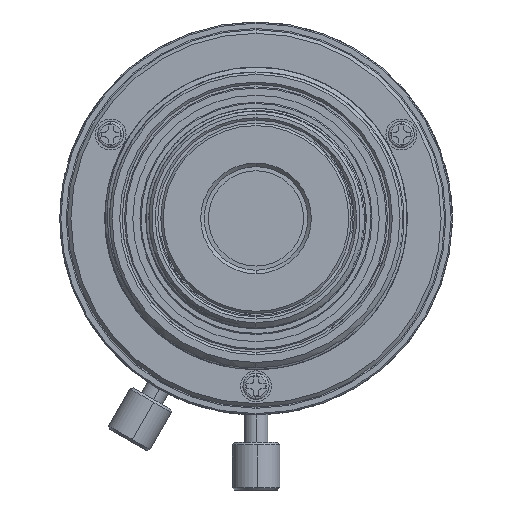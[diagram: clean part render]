
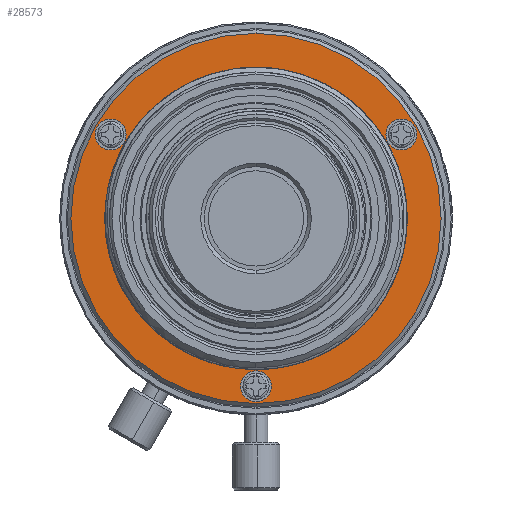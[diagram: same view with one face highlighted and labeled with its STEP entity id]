
A CAD part, front view. The second image highlights one B-rep face of the part: STEP entity #28573.
In plain terms, the highlighted planar face has unit normal (0, 1, 0).
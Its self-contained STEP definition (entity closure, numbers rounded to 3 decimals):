
#570 = CIRCLE ( 'NONE', #33100, 12.1 ) ;
#872 = EDGE_LOOP ( 'NONE', ( #6571, #2146 ) ) ;
#1667 = CARTESIAN_POINT ( 'NONE',  ( 12.211, -2.674, 7.05 ) ) ;
#1830 = EDGE_LOOP ( 'NONE', ( #25252, #28541 ) ) ;
#1973 = DIRECTION ( 'NONE',  ( 0., 1., 0. ) ) ;
#2084 = DIRECTION ( 'NONE',  ( 0., 0., -1. ) ) ;
#2146 = ORIENTED_EDGE ( 'NONE', *, *, #26427, .F. ) ;
#2754 = FACE_BOUND ( 'NONE', #872, .T. ) ;
#2823 = EDGE_CURVE ( 'NONE', #13153, #30899, #17665, .T. ) ;
#3030 = ORIENTED_EDGE ( 'NONE', *, *, #29679, .F. ) ;
#5256 = CARTESIAN_POINT ( 'NONE',  ( 0., -2.674, 0. ) ) ;
#5676 = VERTEX_POINT ( 'NONE', #15862 ) ;
#6571 = ORIENTED_EDGE ( 'NONE', *, *, #36274, .F. ) ;
#7588 = CARTESIAN_POINT ( 'NONE',  ( 0., -2.674, -15.55 ) ) ;
#9492 = FACE_BOUND ( 'NONE', #48688, .T. ) ;
#9953 = AXIS2_PLACEMENT_3D ( 'NONE', #18325, #44793, #22135 ) ;
#10612 = AXIS2_PLACEMENT_3D ( 'NONE', #11395, #37991, #15263 ) ;
#10906 = CARTESIAN_POINT ( 'NONE',  ( 0., -2.674, 0. ) ) ;
#11395 = CARTESIAN_POINT ( 'NONE',  ( 0., -2.674, 0. ) ) ;
#11472 = DIRECTION ( 'NONE',  ( 0., 1., 0. ) ) ;
#11486 = DIRECTION ( 'NONE',  ( 0., -1., 0. ) ) ;
#11969 = CARTESIAN_POINT ( 'NONE',  ( 0., -2.674, -14.1 ) ) ;
#12018 = VERTEX_POINT ( 'NONE', #29387 ) ;
#12100 = EDGE_LOOP ( 'NONE', ( #33950, #19963 ) ) ;
#12176 = CARTESIAN_POINT ( 'NONE',  ( -12.211, -2.674, 5.75 ) ) ;
#12755 = CARTESIAN_POINT ( 'NONE',  ( -12.211, -2.674, 7.05 ) ) ;
#13153 = VERTEX_POINT ( 'NONE', #19038 ) ;
#13179 = EDGE_CURVE ( 'NONE', #44240, #30445, #18993, .T. ) ;
#13653 = CARTESIAN_POINT ( 'NONE',  ( 0., -2.674, -12.1 ) ) ;
#13654 = AXIS2_PLACEMENT_3D ( 'NONE', #41533, #18880, #45323 ) ;
#13668 = CARTESIAN_POINT ( 'NONE',  ( 0., -2.674, -15.4 ) ) ;
#14510 = VERTEX_POINT ( 'NONE', #13668 ) ;
#14771 = DIRECTION ( 'NONE',  ( 0., 0., -1. ) ) ;
#14922 = CIRCLE ( 'NONE', #10612, 15.55 ) ;
#15263 = DIRECTION ( 'NONE',  ( 0., 0., 1. ) ) ;
#15826 = DIRECTION ( 'NONE',  ( 0., 0., -1. ) ) ;
#15862 = CARTESIAN_POINT ( 'NONE',  ( 0., -2.674, -12.8 ) ) ;
#15907 = CARTESIAN_POINT ( 'NONE',  ( 0., -2.674, 0. ) ) ;
#16598 = DIRECTION ( 'NONE',  ( 0., 0., -1. ) ) ;
#16989 = DIRECTION ( 'NONE',  ( 0., -1., 0. ) ) ;
#17408 = AXIS2_PLACEMENT_3D ( 'NONE', #34269, #11472, #38059 ) ;
#17665 = CIRCLE ( 'NONE', #36646, 1.3 ) ;
#18201 = AXIS2_PLACEMENT_3D ( 'NONE', #10906, #37523, #14771 ) ;
#18325 = CARTESIAN_POINT ( 'NONE',  ( 0., -2.674, -14.1 ) ) ;
#18880 = DIRECTION ( 'NONE',  ( 0., 1., 0. ) ) ;
#18993 = CIRCLE ( 'NONE', #28237, 15.55 ) ;
#19038 = CARTESIAN_POINT ( 'NONE',  ( 12.211, -2.674, 5.75 ) ) ;
#19687 = CIRCLE ( 'NONE', #22483, 1.3 ) ;
#19742 = FACE_BOUND ( 'NONE', #42134, .T. ) ;
#19785 = DIRECTION ( 'NONE',  ( 0., 0., -1. ) ) ;
#19963 = ORIENTED_EDGE ( 'NONE', *, *, #29543, .F. ) ;
#20377 = EDGE_CURVE ( 'NONE', #36958, #12018, #570, .T. ) ;
#22135 = DIRECTION ( 'NONE',  ( 0., 0., -1. ) ) ;
#22483 = AXIS2_PLACEMENT_3D ( 'NONE', #11969, #38554, #15826 ) ;
#23372 = EDGE_CURVE ( 'NONE', #12018, #36958, #46525, .T. ) ;
#23649 = AXIS2_PLACEMENT_3D ( 'NONE', #12755, #39316, #16598 ) ;
#24443 = CIRCLE ( 'NONE', #17408, 1.3 ) ;
#24455 = VERTEX_POINT ( 'NONE', #12176 ) ;
#25111 = CIRCLE ( 'NONE', #9953, 1.3 ) ;
#25252 = ORIENTED_EDGE ( 'NONE', *, *, #13179, .F. ) ;
#25557 = ORIENTED_EDGE ( 'NONE', *, *, #47600, .F. ) ;
#26427 = EDGE_CURVE ( 'NONE', #44283, #24455, #36992, .T. ) ;
#27776 = CIRCLE ( 'NONE', #13654, 1.3 ) ;
#28237 = AXIS2_PLACEMENT_3D ( 'NONE', #34282, #11486, #38075 ) ;
#28541 = ORIENTED_EDGE ( 'NONE', *, *, #28838, .F. ) ;
#28573 = ADVANCED_FACE ( 'NONE', ( #2754, #29823, #19742, #9492, #48677 ), #47068, .F. ) ;
#28648 = ORIENTED_EDGE ( 'NONE', *, *, #20377, .F. ) ;
#28838 = EDGE_CURVE ( 'NONE', #30445, #44240, #14922, .T. ) ;
#29387 = CARTESIAN_POINT ( 'NONE',  ( 0., -2.674, 12.1 ) ) ;
#29543 = EDGE_CURVE ( 'NONE', #30899, #13153, #24443, .T. ) ;
#29679 = EDGE_CURVE ( 'NONE', #5676, #14510, #19687, .T. ) ;
#29823 = FACE_BOUND ( 'NONE', #12100, .T. ) ;
#30445 = VERTEX_POINT ( 'NONE', #7588 ) ;
#30899 = VERTEX_POINT ( 'NONE', #36484 ) ;
#33100 = AXIS2_PLACEMENT_3D ( 'NONE', #15907, #42431, #19785 ) ;
#33950 = ORIENTED_EDGE ( 'NONE', *, *, #2823, .F. ) ;
#34269 = CARTESIAN_POINT ( 'NONE',  ( 12.211, -2.674, 7.05 ) ) ;
#34282 = CARTESIAN_POINT ( 'NONE',  ( 0., -2.674, 0. ) ) ;
#36274 = EDGE_CURVE ( 'NONE', #24455, #44283, #27776, .T. ) ;
#36484 = CARTESIAN_POINT ( 'NONE',  ( 12.211, -2.674, 8.35 ) ) ;
#36646 = AXIS2_PLACEMENT_3D ( 'NONE', #1667, #1973, #2084 ) ;
#36958 = VERTEX_POINT ( 'NONE', #13653 ) ;
#36992 = CIRCLE ( 'NONE', #23649, 1.3 ) ;
#37523 = DIRECTION ( 'NONE',  ( 0., 1., 0. ) ) ;
#37991 = DIRECTION ( 'NONE',  ( 0., -1., 0. ) ) ;
#38059 = DIRECTION ( 'NONE',  ( 0., 0., -1. ) ) ;
#38075 = DIRECTION ( 'NONE',  ( 0., 0., 1. ) ) ;
#38554 = DIRECTION ( 'NONE',  ( 0., 1., 0. ) ) ;
#39316 = DIRECTION ( 'NONE',  ( 0., 1., 0. ) ) ;
#41533 = CARTESIAN_POINT ( 'NONE',  ( -12.211, -2.674, 7.05 ) ) ;
#42117 = AXIS2_PLACEMENT_3D ( 'NONE', #5256, #16989, #43474 ) ;
#42134 = EDGE_LOOP ( 'NONE', ( #25557, #3030 ) ) ;
#42431 = DIRECTION ( 'NONE',  ( 0., 1., 0. ) ) ;
#42995 = CARTESIAN_POINT ( 'NONE',  ( 0., -2.674, 15.55 ) ) ;
#43474 = DIRECTION ( 'NONE',  ( 0., 0., -1. ) ) ;
#44240 = VERTEX_POINT ( 'NONE', #42995 ) ;
#44283 = VERTEX_POINT ( 'NONE', #46766 ) ;
#44793 = DIRECTION ( 'NONE',  ( 0., 1., 0. ) ) ;
#45323 = DIRECTION ( 'NONE',  ( 0., 0., -1. ) ) ;
#46525 = CIRCLE ( 'NONE', #18201, 12.1 ) ;
#46766 = CARTESIAN_POINT ( 'NONE',  ( -12.211, -2.674, 8.35 ) ) ;
#47068 = PLANE ( 'NONE',  #42117 ) ;
#47600 = EDGE_CURVE ( 'NONE', #14510, #5676, #25111, .T. ) ;
#48086 = ORIENTED_EDGE ( 'NONE', *, *, #23372, .F. ) ;
#48677 = FACE_OUTER_BOUND ( 'NONE', #1830, .T. ) ;
#48688 = EDGE_LOOP ( 'NONE', ( #28648, #48086 ) ) ;
